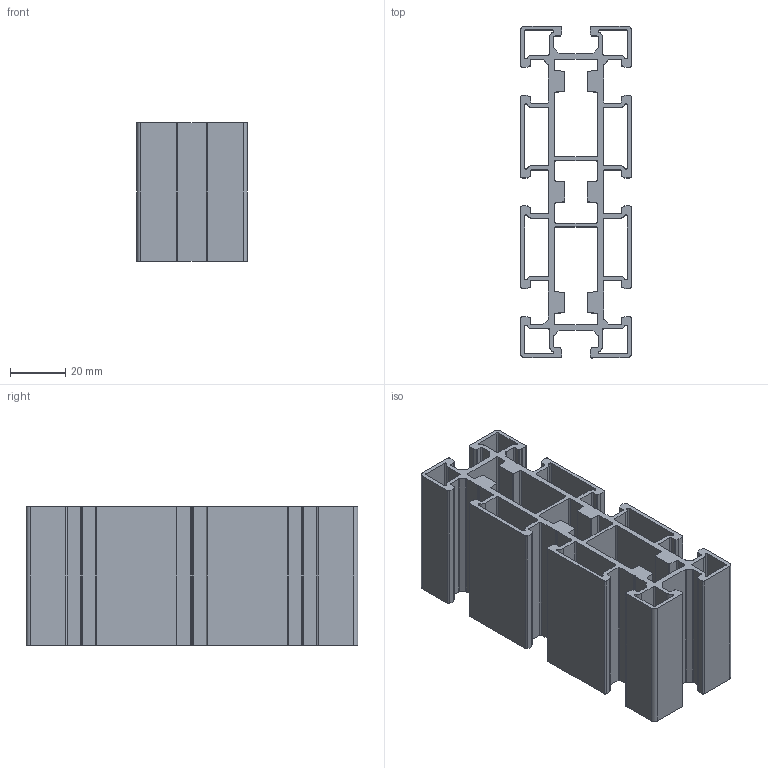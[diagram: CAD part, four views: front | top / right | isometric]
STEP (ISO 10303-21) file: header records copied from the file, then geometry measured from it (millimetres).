
FILE_DESCRIPTION(('STEP AP214'),'1');
FILE_NAME('F412-.stp','2018-10-01T09:17:34',(' '),(' '),'Spatial InterOp 3D',' ',' ');
FILE_SCHEMA(('automotive_design'));
Length unit declared in the file: millimetre
Products named in the file (1): F412-
Bounding box: 40 x 120 x 50 mm (x, y, z)
Volume: 65667.1 mm3; surface area: 65850 mm2
Topology: 1 solids, 1 shells, 372 faces, 1110 edges, 740 vertices
Faces by surface type: cylinder 192, plane 180
Entity records: 15654 total; most frequent: DIRECTION 2240, CARTESIAN_POINT 2223, ORIENTED_EDGE 2220, EDGE_CURVE 1110, AXIS2_PLACEMENT_3D 757, VERTEX_POINT 740, LINE 726, VECTOR 726
